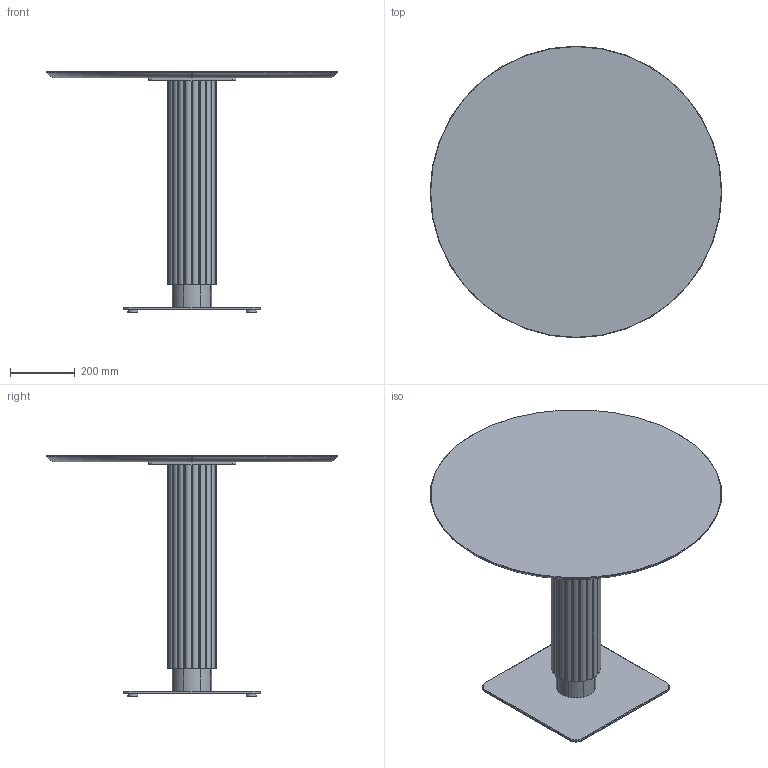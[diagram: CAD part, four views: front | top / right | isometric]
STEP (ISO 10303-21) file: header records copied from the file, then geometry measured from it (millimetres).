
FILE_DESCRIPTION( ('This file contains a STEP AP42 implementation' ,'as created by ZW3D STEP Interface translator.') ,'2;1' );
FILE_NAME( 'Godron - B_Carré - F1 - M3 - 800 x 800 x 750.stp' ,'24 912. 94241', (''), ('ZWCAD Software Co.'), 'Version 1.0', 'ZW3D to STEP translator', '' );
FILE_SCHEMA(('AUTOMOTIVE_DESIGN { 1 0 10303 214 1 1 1 1 }'));
Length unit declared in the file: millimetre
Products named in the file (16): 0; PIED BISTROT PARAMETRIQUE_; CROIX ACIER 370 V.02_; CRX-X370-02_; SOCLE ACIER L 425x425 V.02_; SCL-R425-02_; PLA-R30A-01_; PLA-R30A-01; COLONNE ACIER Ø48.5 V.02_; TUB-D048-02_; PLA-R48A-01_; Colonne GODRON H700_; WUERTH 0276063020 Euro-screw 6.3x2 Verzinkt_; PLATEAU BISTROT PARAMETRIQUE_; insert_m6_13_; insert_m6_13
Assembly tree (23 placements, depth 3):
  0
  PIED BISTROT PARAMETRIQUE_
    CROIX ACIER 370 V.02_
      CRX-X370-02_
    SOCLE ACIER L 425x425 V.02_
      SCL-R425-02_
      PLA-R30A-01_
      PLA-R30A-01  x3
    COLONNE ACIER Ø48.5 V.02_
      TUB-D048-02_
      PLA-R48A-01_  x2
    Colonne GODRON H700_
    WUERTH 0276063020 Euro-screw 6.3x2 Verzinkt_
    PLATEAU BISTROT PARAMETRIQUE_
      insert_m6_13_  x2
      insert_m6_13  x6
Bounding box: 900 x 900 x 744 mm (x, y, z)
Volume: 24793328 mm3; surface area: 3083316 mm2
Topology: 27 solids, 27 shells, 669 faces, 1662 edges, 1062 vertices
Faces by surface type: plane 298, cylinder 196, bspline 121, cone 49, torus 5
Full cylindrical faces by diameter (mm): 4.88 x1, 6 x8, 6.3 x1, 8 x45, 12 x2, 14 x2, 30 x4, 44.5 x3, 48.5 x1
Entity records: 17862 total; most frequent: CARTESIAN_POINT 4547, ORIENTED_EDGE 2472, DIRECTION 2457, EDGE_CURVE 1236, AXIS2_PLACEMENT_3D 870, VERTEX_POINT 796, VECTOR 717, LINE 717
